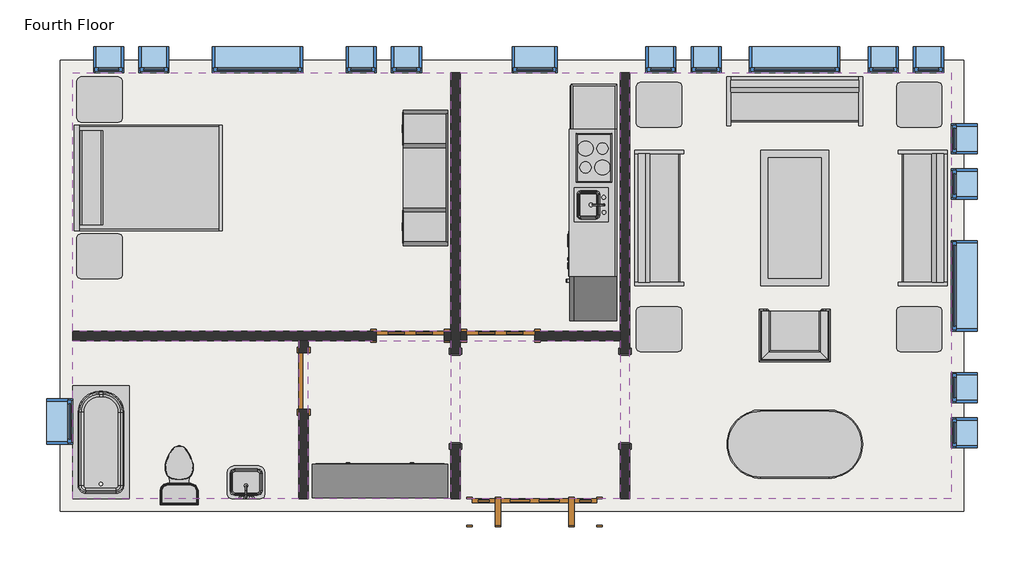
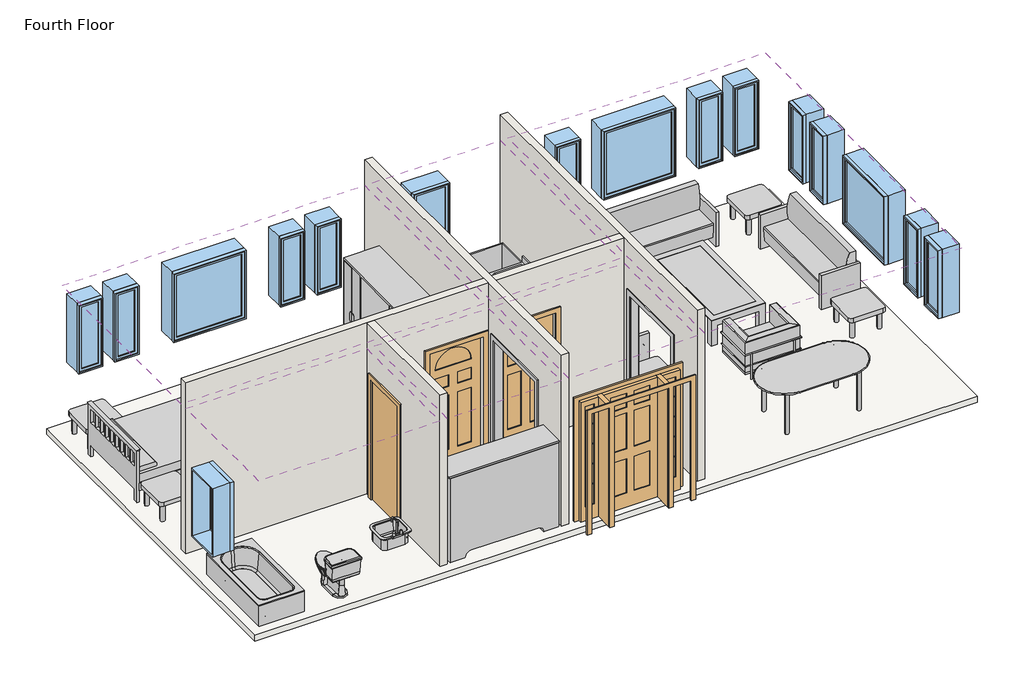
# One storey: 17 windows, 15 furniture elements, 6 coverings, 5 walls, 4 doors, 3 flow terminals, 3 proxies, 1 slab.
"""IFC4 building model written with IfcOpenShell, lengths in millimetres."""

from ifc_helpers import new_model, si_unit, frame, origin, place, context, project, spatial, polyline, outline, extrude, faceted_brep, transform, mapped, element, save
from components import proxy_64a468c4, proxy_f44482cc, door_829da954, door_2e3b4da2, door_4d6c7550, door_dba5aa2e, flow_terminal_0aeb31e3, toilet_domestic_3d_toilet_domestic_3d_f7549cf7, toilet_domestic_3d_toilet_domestic_3d_183bbd19, tub_rectangular_3d_tub_rectangular_3d_5e45a89b, furniture_096e7f55, chair_corbu_chair_corbu_2764bdef, furniture_7c473f12, furniture_ddc78764, furniture_4ef38d96, furniture_cd93a443, furniture_2c34a4f9, furniture_3a588284, furniture_1befe2a2, window_da97879f, window_d61ef850, window_60baf983, window_6eb97611

model = new_model("IFC4")

# Units and contexts
model_context = context("Model", 3, world=origin())
ifc_project = project(units=[si_unit("LENGTHUNIT", "METRE", prefix="MILLI")], contexts=[model_context])

# Site, building, storey
site = spatial("IfcSite", under=ifc_project)
building = spatial("IfcBuilding", under=site)
storey = spatial("IfcBuildingStorey", under=building, Name="Fourth Floor", Elevation=9144.0)

# Proxies
placement = place(None, origin())
proxy_shape = proxy_64a468c4(model_context)
element("IfcBuildingElementProxy", 1, Name="Kitchenette - Medium : 8'6\"", ObjectType="Kitchenette - Medium : 8'6\"", at=placement, inside=storey, context=model_context, shape_type="MappedRepresentation", body=[
    mapped(proxy_shape, transform((-3887.7589563, 8837.7956433, 9144.0), x_axis=(0.0, -1.0, 0.0), y_axis=(1.0, 0.0, 0.0), z_axis=(0.0, 0.0, 1.0))),
])
proxy_2_shape = proxy_f44482cc(model_context)
element("IfcBuildingElementProxy", 2, Name="Opening-Cased : 48\" x 84\"", ObjectType="Opening-Cased : 48\" x 84\"", at=placement, inside=storey, context=model_context, shape_type="MappedRepresentation", body=[
    mapped(proxy_2_shape, transform((-3773.4589563, 5882.4203434, 9144.0), x_axis=(0.0, 1.0, 0.0), y_axis=(-1.0, 0.0, 0.0), z_axis=(0.0, 0.0, 1.0))),
])
element("IfcBuildingElementProxy", 3, Name="Opening-Cased : 48\" x 84\"", ObjectType="Opening-Cased : 48\" x 84\"", at=placement, inside=storey, context=model_context, shape_type="MappedRepresentation", body=[
    mapped(proxy_2_shape, transform((-6059.4589563, 5866.04303, 9144.0), x_axis=(0.0, -1.0, 0.0), y_axis=(1.0, 0.0, 0.0), z_axis=(0.0, 0.0, 1.0))),
])

# Coverings
element("IfcCovering", 4, ObjectType="GWB on Mtl. Stud", at=placement, inside=storey, context=model_context, shape_type="SweptSolid", body=[
    extrude(outline(polyline([(-11217.2464563, 10270.0191867), (-6122.9589563, 10270.0191867), (-6122.9589563, 6787.0441867), (-11217.2464563, 6787.0441867), (-11217.2464563, 10270.0191867)])), frame((0.0, 0.0, 11734.8), z_axis=(0.0, 0.0, 1.0), x_axis=(1.0, 0.0, 0.0)), (0.0, 0.0, 1.0), 107.95),
])
element("IfcCovering", 5, ObjectType="GWB on Mtl. Stud", at=placement, inside=storey, context=model_context, shape_type="SweptSolid", body=[
    extrude(outline(polyline([(-5995.9589563, 6787.0441867), (-5995.9589563, 10270.0191867), (-3836.9589563, 10270.0191867), (-3836.9589563, 6787.0441867), (-5995.9589563, 6787.0441867)])), frame((0.0, 0.0, 11734.8), z_axis=(0.0, 0.0, 1.0), x_axis=(1.0, 0.0, 0.0)), (0.0, 0.0, 1.0), 107.95),
])
element("IfcCovering", 6, ObjectType="GWB on Mtl. Stud", at=placement, inside=storey, context=model_context, shape_type="SweptSolid", body=[
    extrude(outline(polyline([(-3709.9589563, 4526.4441867), (-3709.9589563, 10270.0191867), (622.3285437, 10270.0191867), (622.3285437, 4526.4441867), (-3709.9589563, 4526.4441867)])), frame((0.0, 0.0, 11734.8), z_axis=(0.0, 0.0, 1.0), x_axis=(1.0, 0.0, 0.0)), (0.0, 0.0, 1.0), 107.95),
])
element("IfcCovering", 7, ObjectType="GWB on Mtl. Stud", at=placement, inside=storey, context=model_context, shape_type="SweptSolid", body=[
    extrude(outline(polyline([(-3836.9589563, 4526.4441867), (-5995.9589563, 4526.4441867), (-5995.9589563, 6660.0441867), (-3836.9589563, 6660.0441867), (-3836.9589563, 4526.4441867)])), frame((0.0, 0.0, 11734.8), z_axis=(0.0, 0.0, 1.0), x_axis=(1.0, 0.0, 0.0)), (0.0, 0.0, 1.0), 107.95),
])
element("IfcCovering", 8, ObjectType="GWB on Mtl. Stud", at=placement, inside=storey, context=model_context, shape_type="SweptSolid", body=[
    extrude(outline(polyline([(-6122.9589563, 4526.4441867), (-8042.2464563, 4526.4441867), (-8042.2464563, 6660.0441867), (-6122.9589563, 6660.0441867), (-6122.9589563, 4526.4441867)])), frame((0.0, 0.0, 11734.8), z_axis=(0.0, 0.0, 1.0), x_axis=(1.0, 0.0, 0.0)), (0.0, 0.0, 1.0), 107.95),
])
element("IfcCovering", 9, ObjectType="GWB on Mtl. Stud", at=placement, inside=storey, context=model_context, shape_type="SweptSolid", body=[
    extrude(outline(polyline([(-8169.2464563, 6660.0441867), (-8169.2464563, 4526.4441867), (-11217.2464563, 4526.4441867), (-11217.2464563, 6660.0441867), (-8169.2464563, 6660.0441867)])), frame((0.0, 0.0, 11734.8), z_axis=(0.0, 0.0, 1.0), x_axis=(1.0, 0.0, 0.0)), (0.0, 0.0, 1.0), 107.95),
])

# Doors
door_shape = door_829da954(model_context)
element("IfcDoor", 10, ObjectType="Single-Decorative 2 : 36\" x 84\"", at=placement, inside=storey, context=model_context, shape_type="MappedRepresentation", body=[
    mapped(door_shape, transform((-5449.8589563, 6723.5441867, 9144.0), x_axis=(-1.0, 0.0, 0.0), y_axis=(0.0, -1.0, 0.0), z_axis=(0.0, 0.0, 1.0))),
])
door_2_shape = door_2e3b4da2(model_context)
element("IfcDoor", 11, ObjectType="Single-Decorative 2 : 36\" x 84\"", at=placement, inside=storey, context=model_context, shape_type="MappedRepresentation", body=[
    mapped(door_2_shape, transform((-6669.0589563, 6723.5441867, 9144.0), x_axis=(1.0, 0.0, 0.0), y_axis=(0.0, 1.0, 0.0), z_axis=(0.0, 0.0, 1.0))),
])
door_3_shape = door_4d6c7550(model_context)
element("IfcDoor", 12, ObjectType="Single-Flush : 30\" x 84\"", at=placement, inside=storey, context=model_context, shape_type="MappedRepresentation", body=[
    mapped(door_3_shape, transform((-8105.7464563, 6113.9441867, 9144.0), x_axis=(0.0, 1.0, 0.0), y_axis=(-1.0, 0.0, 0.0), z_axis=(0.0, 0.0, 1.0))),
])
door_4_shape = door_dba5aa2e(model_context)
element("IfcDoor", 13, ObjectType="Single-Raised Panel with Sidelights : 36\" x 84\"", at=placement, inside=storey, context=model_context, shape_type="MappedRepresentation", body=[
    mapped(door_4_shape, transform((-4992.6589563, 4350.2316867, 9144.0), x_axis=(-1.0, 0.0, 0.0), y_axis=(0.0, -1.0, 0.0), z_axis=(0.0, 0.0, 1.0))),
])

# Flow terminals
flow_terminal_shape = flow_terminal_0aeb31e3(model_context)
element("IfcFlowTerminal", 14, ObjectType="Sink Vanity-Square : 24\" x 19\"", at=placement, inside=storey, context=model_context, shape_type="MappedRepresentation", body=[
    mapped(flow_terminal_shape, transform((-8864.7572157, 4706.5895878, 9144.0), x_axis=(-1.0, 0.0, 0.0), y_axis=(0.0, -1.0, 0.0), z_axis=(0.0, 0.0, 1.0))),
])
toilet_domestic_3d_toilet_domestic_3d_shape = toilet_domestic_3d_toilet_domestic_3d_f7549cf7(model_context)
toilet_domestic_3d_toilet_domestic_3d_2_shape = toilet_domestic_3d_toilet_domestic_3d_183bbd19(model_context)
element("IfcFlowTerminal", 15, ObjectType="Toilet-Domestic-3D : Toilet-Domestic-3D", at=placement, inside=storey, context=model_context, shape_type="MappedRepresentation", body=[
    mapped(toilet_domestic_3d_toilet_domestic_3d_shape, transform((-9782.1466587, 4940.866411, 9144.0), x_axis=(-1.0000000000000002, 0.0, 0.0), y_axis=(0.0, -1.0000000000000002, 0.0), z_axis=(0.0, 0.0, 1.0))),
    mapped(toilet_domestic_3d_toilet_domestic_3d_2_shape, transform((-9782.1466587, 4940.866411, 9144.0), x_axis=(-1.0000000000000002, 0.0, 0.0), y_axis=(0.0, -1.0000000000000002, 0.0), z_axis=(0.0, 0.0, 1.0))),
])
tub_rectangular_3d_tub_rectangular_3d_shape = tub_rectangular_3d_tub_rectangular_3d_5e45a89b(model_context)
element("IfcFlowTerminal", 16, ObjectType="Tub-Rectangular-3D : Tub-Rectangular-3D", at=placement, inside=storey, context=model_context, shape_type="MappedRepresentation", body=[
    mapped(tub_rectangular_3d_tub_rectangular_3d_shape, transform((-11393.4589563, 5637.0471554, 9144.0), x_axis=(0.0, 1.0, 0.0), y_axis=(-1.0, 0.0, 0.0), z_axis=(0.0, 0.0, 1.0))),
])

# Furniture
furniture_shape = furniture_096e7f55(model_context)
element("IfcFurniture", 17, ObjectType="Bed-Shaker : Double 56\" x 78\"", at=placement, inside=storey, context=model_context, shape_type="MappedRepresentation", body=[
    mapped(furniture_shape, transform((-11183.1982802, 8871.8755561, 9144.0), x_axis=(0.0, 1.0, 0.0), y_axis=(-1.0, 0.0, 0.0), z_axis=(0.0, 0.0, 1.0))),
])
chair_corbu_chair_corbu_shape = chair_corbu_chair_corbu_2764bdef(model_context)
element("IfcFurniture", 18, ObjectType="Chair-Corbu : Chair-Corbu", at=placement, inside=storey, context=model_context, shape_type="MappedRepresentation", body=[
    mapped(chair_corbu_chair_corbu_shape, transform((-914.0851858, 7193.4962359, 9144.0), x_axis=(-1.0, 0.0, 0.0), y_axis=(0.0, -1.0, 0.0), z_axis=(0.0, 0.0, 1.0))),
])
furniture_2_shape = furniture_7c473f12(model_context)
element("IfcFurniture", 19, ObjectType="Dresser : 72\" x 60\" x 18\"", at=placement, inside=storey, context=model_context, shape_type="MappedRepresentation", body=[
    mapped(furniture_2_shape, transform((-7344.6522161, 4404.5812326, 9144.0), x_axis=(-1.0, 0.0, 0.0), y_axis=(0.0, -1.0, 0.0), z_axis=(0.0, 0.0, 1.0))),
])
furniture_3_shape = furniture_ddc78764(model_context)
element("IfcFurniture", 20, ObjectType="Entertainment Center : 72\" x 72\" x 24\"", at=placement, inside=storey, context=model_context, shape_type="MappedRepresentation", body=[
    mapped(furniture_3_shape, transform((-6059.4589563, 8852.8255561, 9144.0), x_axis=(0.0, -1.0, 0.0), y_axis=(1.0, 0.0, 0.0), z_axis=(0.0, 0.0, 1.0))),
])
furniture_4_shape = furniture_4ef38d96(model_context)
element("IfcFurniture", 21, ObjectType="Sofa : 72\"", at=placement, inside=storey, context=model_context, shape_type="MappedRepresentation", body=[
    mapped(furniture_4_shape, transform((-1557.8294481, 9741.2775883, 9144.0), x_axis=(1.0, 0.0, 0.0), y_axis=(0.0, 1.0, 0.0), z_axis=(0.0, 0.0, 1.0))),
])
element("IfcFurniture", 22, ObjectType="Sofa : 72\"", at=placement, inside=storey, context=model_context, shape_type="MappedRepresentation", body=[
    mapped(furniture_4_shape, transform((93.5869453, 8383.0021785, 9144.0), x_axis=(0.0, -1.0, 0.0), y_axis=(1.0, 0.0, 0.0), z_axis=(0.0, 0.0, 1.0))),
])
element("IfcFurniture", 23, ObjectType="Sofa : 72\"", at=placement, inside=storey, context=model_context, shape_type="MappedRepresentation", body=[
    mapped(furniture_4_shape, transform((-3170.104858, 8242.2611949, 9144.0), x_axis=(0.0, 1.0, 0.0), y_axis=(-1.0, 0.0, 0.0), z_axis=(0.0, 0.0, 1.0))),
])
furniture_5_shape = furniture_cd93a443(model_context)
element("IfcFurniture", 24, ObjectType="Table-Coffee : 36\" x 72\" x 18\"", at=placement, inside=storey, context=model_context, shape_type="MappedRepresentation", body=[
    mapped(furniture_5_shape, transform((-1582.6700341, 8330.8974534, 9144.0), x_axis=(0.0, -1.0, 0.0), y_axis=(1.0, 0.0, 0.0), z_axis=(0.0, 0.0, 1.0))),
])
furniture_6_shape = furniture_2c34a4f9(model_context)
element("IfcFurniture", 25, ObjectType="Table-Dining Oval : 36\" x 72\"", at=placement, inside=storey, context=model_context, shape_type="MappedRepresentation", body=[
    mapped(furniture_6_shape, transform((-1085.6392842, 5622.7300473, 9144.0), x_axis=(1.0, 0.0, 0.0), y_axis=(0.0, 1.0, 0.0), z_axis=(0.0, 0.0, 1.0))),
])
furniture_7_shape = furniture_3a588284(model_context)
element("IfcFurniture", 26, ObjectType="Table-End : 24\" x 24\"", at=placement, inside=storey, context=model_context, shape_type="MappedRepresentation", body=[
    mapped(furniture_7_shape, transform((-119.5925866, 9684.2316867, 9144.0), x_axis=(1.0, 0.0, 0.0), y_axis=(0.0, 1.0, 0.0), z_axis=(0.0, 0.0, 1.0))),
])
element("IfcFurniture", 27, ObjectType="Table-End : 24\" x 24\"", at=placement, inside=storey, context=model_context, shape_type="MappedRepresentation", body=[
    mapped(furniture_7_shape, transform((-3624.7925866, 9684.2316867, 9144.0), x_axis=(1.0, 0.0, 0.0), y_axis=(0.0, 1.0, 0.0), z_axis=(0.0, 0.0, 1.0))),
])
element("IfcFurniture", 28, ObjectType="Table-End : 24\" x 24\"", at=placement, inside=storey, context=model_context, shape_type="MappedRepresentation", body=[
    mapped(furniture_7_shape, transform((-3624.7925866, 6660.0441867, 9144.0), x_axis=(1.0, 0.0, 0.0), y_axis=(0.0, 1.0, 0.0), z_axis=(0.0, 0.0, 1.0))),
])
element("IfcFurniture", 29, ObjectType="Table-End : 24\" x 24\"", at=placement, inside=storey, context=model_context, shape_type="MappedRepresentation", body=[
    mapped(furniture_7_shape, transform((-119.5925866, 6660.0441867, 9144.0), x_axis=(1.0, 0.0, 0.0), y_axis=(0.0, 1.0, 0.0), z_axis=(0.0, 0.0, 1.0))),
])
element("IfcFurniture", 30, ObjectType="Table-End : 24\" x 24\"", at=placement, inside=storey, context=model_context, shape_type="MappedRepresentation", body=[
    mapped(furniture_7_shape, transform((-11164.2346356, 9756.0737357, 9144.0), x_axis=(1.0, 0.0, 0.0), y_axis=(0.0, 1.0, 0.0), z_axis=(0.0, 0.0, 1.0))),
])
furniture_8_shape = furniture_1befe2a2(model_context)
element("IfcFurniture", 31, ObjectType="Table-End : 24\" x 24\"", at=placement, inside=storey, context=model_context, shape_type="MappedRepresentation", body=[
    mapped(furniture_8_shape, transform((-11164.2346356, 7949.5773764, 9144.0), x_axis=(1.0, 0.0, 0.0), y_axis=(0.0, 1.0, 0.0), z_axis=(0.0, 0.0, 1.0))),
])

# Slab
element("IfcSlab", 32, ObjectType="LW Concrete on Metal Deck", at=placement, inside=storey, context=model_context, shape_type="SweptSolid", body=[
    extrude(outline(polyline([(787.4285437, 10435.1191867), (787.4285437, 4361.3441867), (-11382.3464563, 4361.3441867), (-11382.3464563, 10435.1191867), (787.4285437, 10435.1191867)])), frame((0.0, 0.0, 9039.225), z_axis=(0.0, 0.0, 1.0), x_axis=(1.0, 0.0, 0.0)), (0.0, 0.0, 1.0), 104.775),
])

# Walls
element("IfcWall", 33, ObjectType="Interior - 5\" Partition (2-hr)", at=placement, inside=storey, context=model_context, shape_type="Brep", body=[
    faceted_brep([(-3709.9589563, 10270.0191867, 9144.0), (-3709.9589563, 6483.8316867, 9144.0), (-3836.9589563, 6483.8316867, 9144.0), (-3836.9589563, 6660.0441867, 9144.0), (-3836.9589563, 6787.0441867, 9144.0), (-3836.9589563, 10270.0191867, 9144.0), (-3709.9589563, 5264.6316867, 9144.0), (-3709.9589563, 4526.4441867, 9144.0), (-3836.9589563, 4526.4441867, 9144.0), (-3836.9589563, 5264.6316867, 9144.0), (-3836.9589563, 10270.0191867, 12192.0), (-3836.9589563, 6787.0441867, 12192.0), (-3836.9589563, 6660.0441867, 12192.0), (-3836.9589563, 4526.4441867, 12192.0), (-3709.9589563, 4526.4441867, 12192.0), (-3709.9589563, 10270.0191867, 12192.0), (-3836.9589563, 6483.8316867, 11277.6), (-3836.9589563, 5264.6316867, 11277.6), (-3709.9589563, 6483.8316867, 11277.6), (-3709.9589563, 5264.6316867, 11277.6)], [[[0, 1, 2, 3, 4, 5]], [[6, 7, 8, 9]], [[10, 11, 12, 13, 14, 15]], [[5, 4, 3, 2, 16, 17, 9, 8, 13, 12, 11, 10]], [[18, 1, 0, 15, 14, 7, 6, 19]], [[5, 10, 15, 0]], [[13, 8, 7, 14]], [[9, 17, 19, 6]], [[16, 2, 1, 18]], [[17, 16, 18, 19]]]),
])
element("IfcWall", 34, ObjectType="Interior - 5\" Partition (2-hr)", at=placement, inside=storey, context=model_context, shape_type="Brep", body=[
    faceted_brep([(-6122.9589563, 4526.4441867, 9144.0), (-6122.9589563, 5264.6316867, 9144.0), (-5995.9589563, 5264.6316867, 9144.0), (-5995.9589563, 4526.4441867, 9144.0), (-6122.9589563, 6483.8316867, 9144.0), (-6122.9589563, 6660.0441867, 9144.0), (-6122.9589563, 6787.0441867, 9144.0), (-6122.9589563, 10270.0191867, 9144.0), (-5995.9589563, 10270.0191867, 9144.0), (-5995.9589563, 6787.0441867, 9144.0), (-5995.9589563, 6660.0441867, 9144.0), (-5995.9589563, 6483.8316867, 9144.0), (-6122.9589563, 10270.0191867, 12192.0), (-6122.9589563, 6787.0441867, 12192.0), (-6122.9589563, 6660.0441867, 12192.0), (-6122.9589563, 4526.4441867, 12192.0), (-5995.9589563, 4526.4441867, 12192.0), (-5995.9589563, 6660.0441867, 12192.0), (-5995.9589563, 6787.0441867, 12192.0), (-5995.9589563, 10270.0191867, 12192.0), (-6122.9589563, 5264.6316867, 11277.6), (-6122.9589563, 6483.8316867, 11277.6), (-5995.9589563, 5264.6316867, 11277.6), (-5995.9589563, 6483.8316867, 11277.6)], [[[0, 1, 2, 3]], [[4, 5, 6, 7, 8, 9, 10, 11]], [[12, 13, 14, 15, 16, 17, 18, 19]], [[20, 1, 0, 15, 14, 13, 12, 7, 6, 5, 4, 21]], [[3, 2, 22, 23, 11, 10, 9, 8, 19, 18, 17, 16]], [[7, 12, 19, 8]], [[15, 0, 3, 16]], [[11, 23, 21, 4]], [[22, 2, 1, 20]], [[23, 22, 20, 21]]]),
])
element("IfcWall", 35, ObjectType="Interior - 5\" Partition (2-hr)", at=placement, inside=storey, context=model_context, shape_type="Brep", body=[
    faceted_brep([(-6122.9589563, 6660.0441867, 9144.0), (-6211.8589563, 6660.0441867, 9144.0), (-6211.8589563, 6787.0441867, 9144.0), (-6122.9589563, 6787.0441867, 9144.0), (-7126.2589563, 6660.0441867, 9144.0), (-8042.2464563, 6660.0441867, 9144.0), (-8169.2464563, 6660.0441867, 9144.0), (-11217.2464563, 6660.0441867, 9144.0), (-11217.2464563, 6787.0441867, 9144.0), (-7126.2589563, 6787.0441867, 9144.0), (-11217.2464563, 6660.0441867, 12192.0), (-8169.2464563, 6660.0441867, 12192.0), (-8042.2464563, 6660.0441867, 12192.0), (-6122.9589563, 6660.0441867, 12192.0), (-6122.9589563, 6787.0441867, 12192.0), (-11217.2464563, 6787.0441867, 12192.0), (-6211.8589563, 6660.0441867, 11277.6), (-7126.2589563, 6660.0441867, 11277.6), (-6211.8589563, 6787.0441867, 11277.6), (-7126.2589563, 6787.0441867, 11277.6)], [[[0, 1, 2, 3]], [[4, 5, 6, 7, 8, 9]], [[10, 11, 12, 13, 14, 15]], [[16, 1, 0, 13, 12, 11, 10, 7, 6, 5, 4, 17]], [[3, 2, 18, 19, 9, 8, 15, 14]], [[13, 0, 3, 14]], [[7, 10, 15, 8]], [[18, 2, 1, 16]], [[19, 18, 16, 17]], [[9, 19, 17, 4]]]),
])
element("IfcWall", 36, ObjectType="Interior - 5\" Partition (2-hr)", at=placement, inside=storey, context=model_context, shape_type="SweptSolid", body=[
    extrude(outline(polyline([(6660.0441867, 9144.0), (6494.9441867, 9144.0), (6494.9441867, 11277.6), (5732.9441867, 11277.6), (5732.9441867, 9144.0), (4526.4441867, 9144.0), (4526.4441867, 12192.0), (6660.0441867, 12192.0), (6660.0441867, 9144.0)])), frame((-8169.2464563, 0.0, 0.0), z_axis=(1.0, 0.0, 0.0), x_axis=(0.0, 1.0, 0.0)), (0.0, 0.0, 1.0), 127.0),
])
element("IfcWall", 37, ObjectType="Interior - 5\" Partition (2-hr)", at=placement, inside=storey, context=model_context, shape_type="SweptSolid", body=[
    extrude(outline(polyline([(9144.0, -5995.9589563), (9144.0, -5907.0589563), (11277.6, -5907.0589563), (11277.6, -4992.6589563), (9144.0, -4992.6589563), (9144.0, -3836.9589563), (12192.0, -3836.9589563), (12192.0, -5995.9589563), (9144.0, -5995.9589563)])), frame((0.0, 6660.0441867, 0.0), z_axis=(0.0, 1.0, 0.0), x_axis=(0.0, 0.0, 1.0)), (0.0, 0.0, 1.0), 127.0),
])

# Windows
window_shape = window_da97879f(model_context)
element("IfcWindow", 38, ObjectType="Fixed : 16\" x 48\"", at=placement, inside=storey, context=model_context, shape_type="MappedRepresentation", body=[
    mapped(window_shape, transform((-10771.1589563, 10446.2316867, 9144.0), x_axis=(-1.0, 0.0, 0.0), y_axis=(0.0, -1.0, 0.0), z_axis=(0.0, 0.0, 1.0))),
])
element("IfcWindow", 39, ObjectType="Fixed : 16\" x 48\"", at=placement, inside=storey, context=model_context, shape_type="MappedRepresentation", body=[
    mapped(window_shape, transform((-10161.5589563, 10446.2316867, 9144.0), x_axis=(-1.0, 0.0, 0.0), y_axis=(0.0, -1.0, 0.0), z_axis=(0.0, 0.0, 1.0))),
])
element("IfcWindow", 40, ObjectType="Fixed : 16\" x 48\"", at=placement, inside=storey, context=model_context, shape_type="MappedRepresentation", body=[
    mapped(window_shape, transform((-3328.9589563, 10446.2316867, 9144.0), x_axis=(-1.0, 0.0, 0.0), y_axis=(0.0, -1.0, 0.0), z_axis=(0.0, 0.0, 1.0))),
])
element("IfcWindow", 41, ObjectType="Fixed : 16\" x 48\"", at=placement, inside=storey, context=model_context, shape_type="MappedRepresentation", body=[
    mapped(window_shape, transform((-2719.3589563, 10446.2316867, 9144.0), x_axis=(-1.0, 0.0, 0.0), y_axis=(0.0, -1.0, 0.0), z_axis=(0.0, 0.0, 1.0))),
])
element("IfcWindow", 42, ObjectType="Fixed : 16\" x 48\"", at=placement, inside=storey, context=model_context, shape_type="MappedRepresentation", body=[
    mapped(window_shape, transform((798.5410437, 9417.5316867, 9144.0), x_axis=(0.0, 1.0, 0.0), y_axis=(-1.0, 0.0, 0.0), z_axis=(0.0, 0.0, 1.0))),
])
element("IfcWindow", 43, ObjectType="Fixed : 16\" x 48\"", at=placement, inside=storey, context=model_context, shape_type="MappedRepresentation", body=[
    mapped(window_shape, transform((798.5410437, 8807.9316867, 9144.0), x_axis=(0.0, 1.0, 0.0), y_axis=(-1.0, 0.0, 0.0), z_axis=(0.0, 0.0, 1.0))),
])
window_2_shape = window_d61ef850(model_context)
element("IfcWindow", 44, ObjectType="Fixed : 16\" x 48\"", at=placement, inside=storey, context=model_context, shape_type="MappedRepresentation", body=[
    mapped(window_2_shape, transform((-6681.7589563, 10446.2316867, 9144.0), x_axis=(1.0, 0.0, 0.0), y_axis=(0.0, 1.0, 0.0), z_axis=(0.0, 0.0, 1.0))),
])
element("IfcWindow", 45, ObjectType="Fixed : 16\" x 48\"", at=placement, inside=storey, context=model_context, shape_type="MappedRepresentation", body=[
    mapped(window_2_shape, transform((-7291.3589563, 10446.2316867, 9144.0), x_axis=(1.0, 0.0, 0.0), y_axis=(0.0, 1.0, 0.0), z_axis=(0.0, 0.0, 1.0))),
])
element("IfcWindow", 46, ObjectType="Fixed : 16\" x 48\"", at=placement, inside=storey, context=model_context, shape_type="MappedRepresentation", body=[
    mapped(window_2_shape, transform((354.0410437, 10446.2316867, 9144.0), x_axis=(1.0, 0.0, 0.0), y_axis=(0.0, 1.0, 0.0), z_axis=(0.0, 0.0, 1.0))),
])
element("IfcWindow", 47, ObjectType="Fixed : 16\" x 48\"", at=placement, inside=storey, context=model_context, shape_type="MappedRepresentation", body=[
    mapped(window_2_shape, transform((-255.5589563, 10446.2316867, 9144.0), x_axis=(1.0, 0.0, 0.0), y_axis=(0.0, 1.0, 0.0), z_axis=(0.0, 0.0, 1.0))),
])
element("IfcWindow", 48, ObjectType="Fixed : 16\" x 48\"", at=placement, inside=storey, context=model_context, shape_type="MappedRepresentation", body=[
    mapped(window_2_shape, transform((798.5410437, 5378.9316867, 9144.0), x_axis=(0.0, -1.0, 0.0), y_axis=(1.0, 0.0, 0.0), z_axis=(0.0, 0.0, 1.0))),
])
element("IfcWindow", 49, ObjectType="Fixed : 16\" x 48\"", at=placement, inside=storey, context=model_context, shape_type="MappedRepresentation", body=[
    mapped(window_2_shape, transform((798.5410437, 5988.5316867, 9144.0), x_axis=(0.0, -1.0, 0.0), y_axis=(1.0, 0.0, 0.0), z_axis=(0.0, 0.0, 1.0))),
])
window_3_shape = window_60baf983(model_context)
element("IfcWindow", 50, ObjectType="Fixed : 24\" x 48\"", at=placement, inside=storey, context=model_context, shape_type="MappedRepresentation", body=[
    mapped(window_3_shape, transform((-5030.7589563, 10446.2316867, 9144.0), x_axis=(-1.0, 0.0, 0.0), y_axis=(0.0, -1.0, 0.0), z_axis=(0.0, 0.0, 1.0))),
])
element("IfcWindow", 51, ObjectType="Fixed : 24\" x 48\"", at=placement, inside=storey, context=model_context, shape_type="MappedRepresentation", body=[
    mapped(window_3_shape, transform((-11393.4589563, 5531.3316867, 9144.0), x_axis=(0.0, -1.0, 0.0), y_axis=(1.0, 0.0, 0.0), z_axis=(0.0, 0.0, 1.0))),
])
window_4_shape = window_6eb97611(model_context)
element("IfcWindow", 52, ObjectType="Fixed : 48\" x 48\"", at=placement, inside=storey, context=model_context, shape_type="MappedRepresentation", body=[
    mapped(window_4_shape, transform((-8764.5589563, 10446.2316867, 9144.0), x_axis=(-1.0, 0.0, 0.0), y_axis=(0.0, -1.0, 0.0), z_axis=(0.0, 0.0, 1.0))),
])
element("IfcWindow", 53, ObjectType="Fixed : 48\" x 48\"", at=placement, inside=storey, context=model_context, shape_type="MappedRepresentation", body=[
    mapped(window_4_shape, transform((-1525.5589563, 10446.2316867, 9144.0), x_axis=(-1.0, 0.0, 0.0), y_axis=(0.0, -1.0, 0.0), z_axis=(0.0, 0.0, 1.0))),
])
element("IfcWindow", 54, ObjectType="Fixed : 48\" x 48\"", at=placement, inside=storey, context=model_context, shape_type="MappedRepresentation", body=[
    mapped(window_4_shape, transform((798.5410437, 7436.3316867, 9144.0), x_axis=(0.0, 1.0, 0.0), y_axis=(-1.0, 0.0, 0.0), z_axis=(0.0, 0.0, 1.0))),
])

save(model, "model.ifc")
